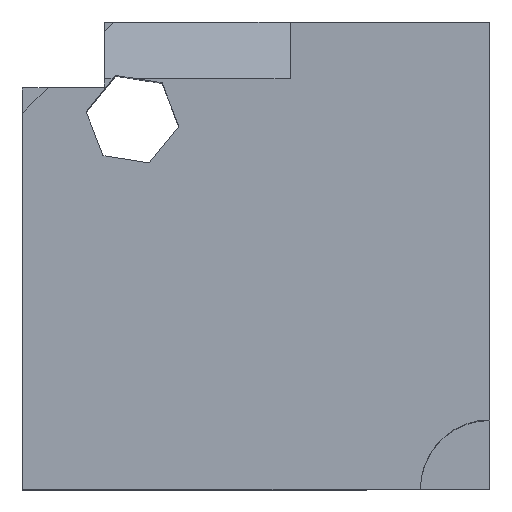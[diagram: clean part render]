
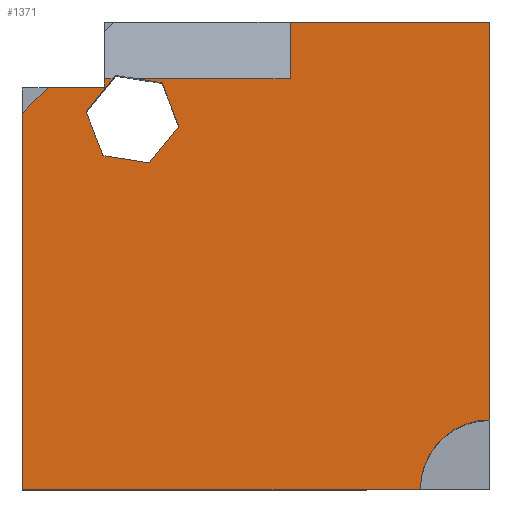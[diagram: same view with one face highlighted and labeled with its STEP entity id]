
A CAD part, top view. The second image highlights one B-rep face of the part: STEP entity #1371.
In plain terms, the highlighted planar face has unit normal (0, 0, 1).
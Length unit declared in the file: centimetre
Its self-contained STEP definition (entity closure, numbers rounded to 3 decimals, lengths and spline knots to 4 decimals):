
#2 = VERTEX_POINT ( 'NONE', #1107 ) ;
#3 = EDGE_CURVE ( 'NONE', #741, #1116, #1497, .T. ) ;
#28 = CARTESIAN_POINT ( 'NONE',  ( 0., 804.827, 1000. ) ) ;
#71 = VERTEX_POINT ( 'NONE', #275 ) ;
#80 = CARTESIAN_POINT ( 'NONE',  ( 298.9611, 869.9638, 1000. ) ) ;
#126 = VECTOR ( 'NONE', #1435, 100. ) ;
#127 = ORIENTED_EDGE ( 'NONE', *, *, #1616, .F. ) ;
#130 = VERTEX_POINT ( 'NONE', #285 ) ;
#133 = VERTEX_POINT ( 'NONE', #787 ) ;
#141 = LINE ( 'NONE', #276, #1019 ) ;
#147 = VECTOR ( 'NONE', #1377, 100. ) ;
#150 = VECTOR ( 'NONE', #947, 100. ) ;
#165 = ORIENTED_EDGE ( 'NONE', *, *, #1110, .T. ) ;
#178 = CARTESIAN_POINT ( 'NONE',  ( 172.4917, 713.9813, 1000. ) ) ;
#194 = EDGE_CURVE ( 'NONE', #1421, #927, #631, .T. ) ;
#201 = DIRECTION ( 'NONE',  ( 1., 0., 0. ) ) ;
#218 = ORIENTED_EDGE ( 'NONE', *, *, #847, .T. ) ;
#248 = LINE ( 'NONE', #337, #616 ) ;
#250 = VECTOR ( 'NONE', #1005, 100. ) ;
#271 = CIRCLE ( 'NONE', #1414, 148.2147 ) ;
#275 = CARTESIAN_POINT ( 'NONE',  ( 851.7853, 0., 1000. ) ) ;
#276 = CARTESIAN_POINT ( 'NONE',  ( 175.5055, 860.3749, 1000. ) ) ;
#285 = CARTESIAN_POINT ( 'NONE',  ( 572.971, 878.7768, 1000. ) ) ;
#302 = CARTESIAN_POINT ( 'NONE',  ( 0., 804.827, 1000. ) ) ;
#325 = FACE_OUTER_BOUND ( 'NONE', #1454, .T. ) ;
#330 = ORIENTED_EDGE ( 'NONE', *, *, #1605, .T. ) ;
#337 = CARTESIAN_POINT ( 'NONE',  ( 572.971, 878.7768, 1000. ) ) ;
#365 = DIRECTION ( 'NONE',  ( -1., 0., 0. ) ) ;
#383 = VECTOR ( 'NONE', #399, 100. ) ;
#399 = DIRECTION ( 'NONE',  ( 0., -1., 0. ) ) ;
#412 = CARTESIAN_POINT ( 'NONE',  ( 136.5666, 807.7398, 1000. ) ) ;
#416 = CARTESIAN_POINT ( 'NONE',  ( 0., 860.3749, 1000. ) ) ;
#418 = ORIENTED_EDGE ( 'NONE', *, *, #526, .T. ) ;
#423 = CARTESIAN_POINT ( 'NONE',  ( 334.8862, 776.2053, 1000. ) ) ;
#475 = ORIENTED_EDGE ( 'NONE', *, *, #1131, .T. ) ;
#488 = DIRECTION ( 'NONE',  ( 0., 1., 0. ) ) ;
#500 = VERTEX_POINT ( 'NONE', #935 ) ;
#526 = EDGE_CURVE ( 'NONE', #1274, #760, #562, .T. ) ;
#535 = CARTESIAN_POINT ( 'NONE',  ( 194.1629, 878.7768, 1000. ) ) ;
#538 = ORIENTED_EDGE ( 'NONE', *, *, #1155, .T. ) ;
#543 = LINE ( 'NONE', #423, #126 ) ;
#559 = DIRECTION ( 'NONE',  ( 0.707, 0.707, 0. ) ) ;
#562 = LINE ( 'NONE', #1070, #150 ) ;
#568 = CARTESIAN_POINT ( 'NONE',  ( 271.6514, 698.214, 1000. ) ) ;
#573 = EDGE_CURVE ( 'NONE', #758, #578, #543, .T. ) ;
#578 = VERTEX_POINT ( 'NONE', #976 ) ;
#579 = CARTESIAN_POINT ( 'NONE',  ( 243.5362, 878.7768, 1000. ) ) ;
#590 = CARTESIAN_POINT ( 'NONE',  ( 136.5666, 807.7398, 1000. ) ) ;
#616 = VECTOR ( 'NONE', #1265, 100. ) ;
#631 = LINE ( 'NONE', #1241, #147 ) ;
#660 = ORIENTED_EDGE ( 'NONE', *, *, #3, .T. ) ;
#668 = LINE ( 'NONE', #416, #938 ) ;
#686 = DIRECTION ( 'NONE',  ( -0.358, 0.934, 0. ) ) ;
#740 = LINE ( 'NONE', #590, #250 ) ;
#741 = VERTEX_POINT ( 'NONE', #1029 ) ;
#748 = ORIENTED_EDGE ( 'NONE', *, *, #993, .F. ) ;
#754 = DIRECTION ( 'NONE',  ( -1., 0., 0. ) ) ;
#758 = VERTEX_POINT ( 'NONE', #1403 ) ;
#760 = VERTEX_POINT ( 'NONE', #1407 ) ;
#762 = EDGE_CURVE ( 'NONE', #945, #133, #1037, .T. ) ;
#766 = ORIENTED_EDGE ( 'NONE', *, *, #573, .T. ) ;
#774 = ORIENTED_EDGE ( 'NONE', *, *, #1257, .T. ) ;
#787 = CARTESIAN_POINT ( 'NONE',  ( 0., 0., 1000. ) ) ;
#788 = DIRECTION ( 'NONE',  ( 0., -1., 0. ) ) ;
#796 = LINE ( 'NONE', #178, #1197 ) ;
#806 = LINE ( 'NONE', #302, #995 ) ;
#830 = PLANE ( 'NONE',  #1366 ) ;
#831 = DIRECTION ( 'NONE',  ( -0.988, 0.157, 0. ) ) ;
#839 = CARTESIAN_POINT ( 'NONE',  ( 1000., 1000., 1000. ) ) ;
#843 = CARTESIAN_POINT ( 'NONE',  ( 572.971, 1000., 1000. ) ) ;
#847 = EDGE_CURVE ( 'NONE', #760, #1224, #141, .T. ) ;
#863 = DIRECTION ( 'NONE',  ( 1., 0., 0. ) ) ;
#882 = VECTOR ( 'NONE', #365, 100. ) ;
#892 = CARTESIAN_POINT ( 'NONE',  ( 298.9611, 869.9638, 1000. ) ) ;
#919 = VERTEX_POINT ( 'NONE', #412 ) ;
#922 = CARTESIAN_POINT ( 'NONE',  ( 0., 1000., 1000. ) ) ;
#927 = VERTEX_POINT ( 'NONE', #892 ) ;
#935 = CARTESIAN_POINT ( 'NONE',  ( 55.5479, 860.3749, 1000. ) ) ;
#938 = VECTOR ( 'NONE', #754, 100. ) ;
#945 = VERTEX_POINT ( 'NONE', #28 ) ;
#947 = DIRECTION ( 'NONE',  ( -1., 0., 0. ) ) ;
#968 = CARTESIAN_POINT ( 'NONE',  ( 175.5055, 860.3749, 1000. ) ) ;
#970 = VECTOR ( 'NONE', #488, 100. ) ;
#972 = EDGE_CURVE ( 'NONE', #578, #1232, #1078, .T. ) ;
#976 = CARTESIAN_POINT ( 'NONE',  ( 271.6514, 698.214, 1000. ) ) ;
#989 = ORIENTED_EDGE ( 'NONE', *, *, #762, .T. ) ;
#993 = EDGE_CURVE ( 'NONE', #945, #500, #806, .T. ) ;
#995 = VECTOR ( 'NONE', #559, 100. ) ;
#1004 = EDGE_CURVE ( 'NONE', #741, #71, #271, .T. ) ;
#1005 = DIRECTION ( 'NONE',  ( 0.63, 0.777, 0. ) ) ;
#1019 = VECTOR ( 'NONE', #788, 100. ) ;
#1029 = CARTESIAN_POINT ( 'NONE',  ( 1000., 148.2147, 1000. ) ) ;
#1037 = LINE ( 'NONE', #1542, #383 ) ;
#1053 = DIRECTION ( 'NONE',  ( 0., 0., 1. ) ) ;
#1057 = CARTESIAN_POINT ( 'NONE',  ( 1000., 0., 1000. ) ) ;
#1060 = DIRECTION ( 'NONE',  ( 0., 0., 1. ) ) ;
#1070 = CARTESIAN_POINT ( 'NONE',  ( 572.971, 878.7768, 1000. ) ) ;
#1078 = LINE ( 'NONE', #568, #1227 ) ;
#1079 = ORIENTED_EDGE ( 'NONE', *, *, #972, .T. ) ;
#1105 = LINE ( 'NONE', #80, #1169 ) ;
#1107 = CARTESIAN_POINT ( 'NONE',  ( 572.971, 1000., 1000. ) ) ;
#1109 = EDGE_CURVE ( 'NONE', #1116, #2, #1560, .T. ) ;
#1110 = EDGE_CURVE ( 'NONE', #927, #758, #1105, .T. ) ;
#1113 = LINE ( 'NONE', #1230, #1313 ) ;
#1116 = VERTEX_POINT ( 'NONE', #839 ) ;
#1131 = EDGE_CURVE ( 'NONE', #919, #1274, #740, .T. ) ;
#1155 = EDGE_CURVE ( 'NONE', #133, #71, #1113, .T. ) ;
#1158 = ORIENTED_EDGE ( 'NONE', *, *, #1109, .T. ) ;
#1169 = VECTOR ( 'NONE', #1493, 100. ) ;
#1181 = DIRECTION ( 'NONE',  ( 1., 0., 0. ) ) ;
#1197 = VECTOR ( 'NONE', #686, 100. ) ;
#1223 = DIRECTION ( 'NONE',  ( 0., 1., 0. ) ) ;
#1224 = VERTEX_POINT ( 'NONE', #968 ) ;
#1227 = VECTOR ( 'NONE', #831, 100. ) ;
#1230 = CARTESIAN_POINT ( 'NONE',  ( 0., 0., 1000. ) ) ;
#1232 = VERTEX_POINT ( 'NONE', #1501 ) ;
#1241 = CARTESIAN_POINT ( 'NONE',  ( 199.8014, 885.7311, 1000. ) ) ;
#1257 = EDGE_CURVE ( 'NONE', #1224, #500, #668, .T. ) ;
#1265 = DIRECTION ( 'NONE',  ( -1., 0., 0. ) ) ;
#1274 = VERTEX_POINT ( 'NONE', #535 ) ;
#1310 = VECTOR ( 'NONE', #1223, 100. ) ;
#1313 = VECTOR ( 'NONE', #863, 100. ) ;
#1323 = CARTESIAN_POINT ( 'NONE',  ( 0., 0., 1000. ) ) ;
#1340 = ORIENTED_EDGE ( 'NONE', *, *, #194, .T. ) ;
#1357 = ORIENTED_EDGE ( 'NONE', *, *, #1533, .T. ) ;
#1366 = AXIS2_PLACEMENT_3D ( 'NONE', #1323, #1060, #1181 ) ;
#1371 = ADVANCED_FACE ( 'NONE', ( #325 ), #830, .T. ) ;
#1377 = DIRECTION ( 'NONE',  ( 0.988, -0.157, 0. ) ) ;
#1403 = CARTESIAN_POINT ( 'NONE',  ( 334.8862, 776.2053, 1000. ) ) ;
#1407 = CARTESIAN_POINT ( 'NONE',  ( 175.5055, 878.7768, 1000. ) ) ;
#1414 = AXIS2_PLACEMENT_3D ( 'NONE', #1057, #1053, #201 ) ;
#1421 = VERTEX_POINT ( 'NONE', #579 ) ;
#1435 = DIRECTION ( 'NONE',  ( -0.63, -0.777, 0. ) ) ;
#1454 = EDGE_LOOP ( 'NONE', ( #1340, #165, #766, #1079, #1357, #475, #418, #218, #774, #748, #989, #538, #1463, #660, #1158, #127, #330 ) ) ;
#1463 = ORIENTED_EDGE ( 'NONE', *, *, #1004, .F. ) ;
#1483 = LINE ( 'NONE', #843, #1310 ) ;
#1493 = DIRECTION ( 'NONE',  ( 0.358, -0.934, 0. ) ) ;
#1497 = LINE ( 'NONE', #1629, #970 ) ;
#1501 = CARTESIAN_POINT ( 'NONE',  ( 172.4917, 713.9813, 1000. ) ) ;
#1533 = EDGE_CURVE ( 'NONE', #1232, #919, #796, .T. ) ;
#1542 = CARTESIAN_POINT ( 'NONE',  ( 0., 1000., 1000. ) ) ;
#1560 = LINE ( 'NONE', #922, #882 ) ;
#1605 = EDGE_CURVE ( 'NONE', #130, #1421, #248, .T. ) ;
#1616 = EDGE_CURVE ( 'NONE', #130, #2, #1483, .T. ) ;
#1629 = CARTESIAN_POINT ( 'NONE',  ( 1000., 1000., 1000. ) ) ;
